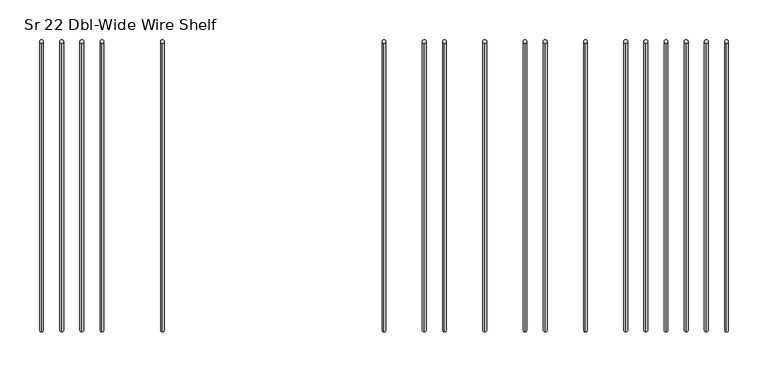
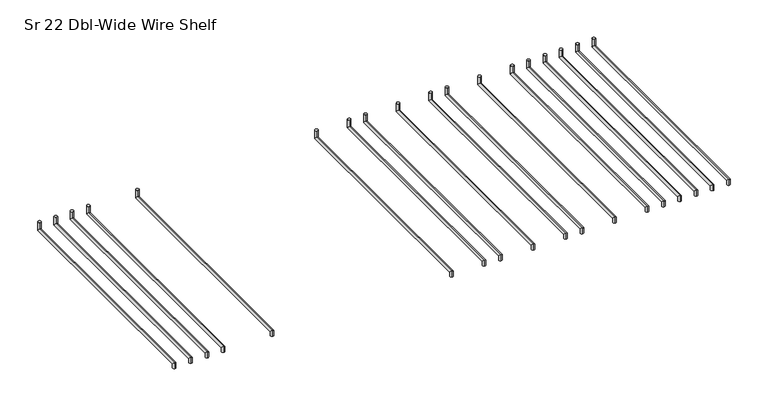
"""IFC4 building model written with IfcOpenShell, lengths in millimetres: furniture geometry, HermanMiller_Carts_CT521_CartShelf : Sr 22 Dbl-Wide Wire Shelf."""

from ifc_helpers import new_model, si_unit, frame, origin, place, context, project, spatial, circle_curve, ellipse_curve, source, transform, mapped, element, save
from ifc_brep_helpers import plane_surface, cylinder_surface, advanced_brep


def sr_22_dbl_wide_wire_shelf_bf86c19f(model_context):
    return source(origin(), model_context, "Body", "AdvancedBrep", [
        advanced_brep(
        [(561.7223083, -206.38135, 1538.8971), (561.7223083, -211.14385, 1538.8971), (561.7223083, -206.38135, 1543.6596), (561.7223083, -211.14385, 1548.4221), (561.7223083, 157.2983379, 1543.6596), (561.7223083, 152.5358379, 1548.4221), (561.7223083, 157.2983379, 1558.9377), (561.7223083, 152.5358379, 1558.9377)],
        [
            (0, 1, circle_curve(frame((561.7223083, -208.7626, 1538.8971), z_axis=(0.0, 0.0, -1.0), x_axis=(0.0, -1.0, 0.0)), 2.38125)),
            (1, 0, circle_curve(frame((561.7223083, -208.7626, 1538.8971), z_axis=(0.0, 0.0, -1.0), x_axis=(0.0, -1.0, 0.0)), 2.38125)),
            (0, 2),
            (2, 3, ellipse_curve(frame((561.7223083, -208.7626, 1546.04085), z_axis=(0.0, -0.7071067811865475, -0.7071067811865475), x_axis=(0.0, 0.7071067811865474, -0.7071067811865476)), 3.367596, 2.38125)),
            (3, 1),
            (3, 2, ellipse_curve(frame((561.7223083, -208.7626, 1546.04085), z_axis=(0.0, -0.7071067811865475, -0.7071067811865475), x_axis=(0.0, 0.7071067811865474, -0.7071067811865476)), 3.367596, 2.38125)),
            (2, 4),
            (4, 5, ellipse_curve(frame((561.7223083, 154.9170879, 1546.04085), z_axis=(0.0, -0.7071067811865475, -0.7071067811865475), x_axis=(0.0, -0.7071067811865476, 0.7071067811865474)), 3.367596, 2.38125)),
            (5, 3),
            (5, 4, ellipse_curve(frame((561.7223083, 154.9170879, 1546.04085), z_axis=(0.0, -0.7071067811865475, -0.7071067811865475), x_axis=(0.0, -0.7071067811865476, 0.7071067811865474)), 3.367596, 2.38125)),
            (6, 7, circle_curve(frame((561.7223083, 154.9170879, 1558.9377), z_axis=(0.0, 0.0, 1.0), x_axis=(0.0, -1.0, 0.0)), 2.38125)),
            (7, 6, circle_curve(frame((561.7223083, 154.9170879, 1558.9377), z_axis=(0.0, 0.0, 1.0), x_axis=(0.0, -1.0, 0.0)), 2.38125)),
            (4, 6),
            (7, 5),
        ],
        [
            plane_surface(frame((561.7223083, -208.7626, 1538.8971), z_axis=(0.0, 0.0, -1.0), x_axis=(1.0, 0.0, 0.0))),
            cylinder_surface(frame((561.7223083, -208.7626, 1538.8971), z_axis=(0.0, 0.0, -1.0), x_axis=(0.0, -1.0, 0.0)), 2.38125),
            cylinder_surface(frame((561.7223083, -208.7626, 1546.04085), z_axis=(0.0, -1.0, 0.0), x_axis=(0.0, 0.0, 1.0)), 2.38125),
            plane_surface(frame((561.7223083, 154.9170879, 1558.9377), z_axis=(0.0, 0.0, 1.0), x_axis=(1.0, 0.0, 0.0))),
            cylinder_surface(frame((561.7223083, 154.9170879, 1546.04085), z_axis=(0.0, 0.0, -1.0), x_axis=(0.0, -1.0, 0.0)), 2.38125),
        ],
        [
            (0, [[1, 2]]),
            (1, [[-1, 3, 4, 5]]),
            (1, [[-2, -5, 6, -3]]),
            (2, [[-4, 7, 8, 9]]),
            (2, [[-6, -9, 10, -7]]),
            (3, [[11, 12]]),
            (4, [[-8, 13, -12, 14]]),
            (4, [[-10, -14, -11, -13]]),
        ],
    ),
        advanced_brep(
        [(637.9223083, -206.38135, 1538.8971), (637.9223083, -211.14385, 1538.8971), (637.9223083, -206.38135, 1543.6596), (637.9223083, -211.14385, 1548.4221), (637.9223083, 157.2983379, 1543.6596), (637.9223083, 152.5358379, 1548.4221), (637.9223083, 157.2983379, 1558.9377), (637.9223083, 152.5358379, 1558.9377)],
        [
            (0, 1, circle_curve(frame((637.9223083, -208.7626, 1538.8971), z_axis=(0.0, 0.0, -1.0), x_axis=(0.0, -1.0, 0.0)), 2.38125)),
            (1, 0, circle_curve(frame((637.9223083, -208.7626, 1538.8971), z_axis=(0.0, 0.0, -1.0), x_axis=(0.0, -1.0, 0.0)), 2.38125)),
            (0, 2),
            (2, 3, ellipse_curve(frame((637.9223083, -208.7626, 1546.04085), z_axis=(0.0, -0.7071067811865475, -0.7071067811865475), x_axis=(0.0, 0.7071067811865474, -0.7071067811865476)), 3.367596, 2.38125)),
            (3, 1),
            (3, 2, ellipse_curve(frame((637.9223083, -208.7626, 1546.04085), z_axis=(0.0, -0.7071067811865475, -0.7071067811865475), x_axis=(0.0, 0.7071067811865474, -0.7071067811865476)), 3.367596, 2.38125)),
            (2, 4),
            (4, 5, ellipse_curve(frame((637.9223083, 154.9170879, 1546.04085), z_axis=(0.0, -0.7071067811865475, -0.7071067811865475), x_axis=(0.0, -0.7071067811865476, 0.7071067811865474)), 3.367596, 2.38125)),
            (5, 3),
            (5, 4, ellipse_curve(frame((637.9223083, 154.9170879, 1546.04085), z_axis=(0.0, -0.7071067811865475, -0.7071067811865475), x_axis=(0.0, -0.7071067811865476, 0.7071067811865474)), 3.367596, 2.38125)),
            (6, 7, circle_curve(frame((637.9223083, 154.9170879, 1558.9377), z_axis=(0.0, 0.0, 1.0), x_axis=(0.0, -1.0, 0.0)), 2.38125)),
            (7, 6, circle_curve(frame((637.9223083, 154.9170879, 1558.9377), z_axis=(0.0, 0.0, 1.0), x_axis=(0.0, -1.0, 0.0)), 2.38125)),
            (4, 6),
            (7, 5),
        ],
        [
            plane_surface(frame((637.9223083, -208.7626, 1538.8971), z_axis=(0.0, 0.0, -1.0), x_axis=(1.0, 0.0, 0.0))),
            cylinder_surface(frame((637.9223083, -208.7626, 1538.8971), z_axis=(0.0, 0.0, -1.0), x_axis=(0.0, -1.0, 0.0)), 2.38125),
            cylinder_surface(frame((637.9223083, -208.7626, 1546.04085), z_axis=(0.0, -1.0, 0.0), x_axis=(0.0, 0.0, 1.0)), 2.38125),
            plane_surface(frame((637.9223083, 154.9170879, 1558.9377), z_axis=(0.0, 0.0, 1.0), x_axis=(1.0, 0.0, 0.0))),
            cylinder_surface(frame((637.9223083, 154.9170879, 1546.04085), z_axis=(0.0, 0.0, -1.0), x_axis=(0.0, -1.0, 0.0)), 2.38125),
        ],
        [
            (0, [[1, 2]]),
            (1, [[-1, 3, 4, 5]]),
            (1, [[-2, -5, 6, -3]]),
            (2, [[-4, 7, 8, 9]]),
            (2, [[-6, -9, 10, -7]]),
            (3, [[11, 12]]),
            (4, [[-8, 13, -12, 14]]),
            (4, [[-10, -14, -11, -13]]),
        ],
    ),
        advanced_brep(
        [(688.7223083, -206.38135, 1538.8971), (688.7223083, -211.14385, 1538.8971), (688.7223083, -206.38135, 1543.6596), (688.7223083, -211.14385, 1548.4221), (688.7223083, 157.2983379, 1543.6596), (688.7223083, 152.5358379, 1548.4221), (688.7223083, 157.2983379, 1558.9377), (688.7223083, 152.5358379, 1558.9377)],
        [
            (0, 1, circle_curve(frame((688.7223083, -208.7626, 1538.8971), z_axis=(0.0, 0.0, -1.0), x_axis=(0.0, -1.0, 0.0)), 2.38125)),
            (1, 0, circle_curve(frame((688.7223083, -208.7626, 1538.8971), z_axis=(0.0, 0.0, -1.0), x_axis=(0.0, -1.0, 0.0)), 2.38125)),
            (0, 2),
            (2, 3, ellipse_curve(frame((688.7223083, -208.7626, 1546.04085), z_axis=(0.0, -0.7071067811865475, -0.7071067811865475), x_axis=(0.0, 0.7071067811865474, -0.7071067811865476)), 3.367596, 2.38125)),
            (3, 1),
            (3, 2, ellipse_curve(frame((688.7223083, -208.7626, 1546.04085), z_axis=(0.0, -0.7071067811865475, -0.7071067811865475), x_axis=(0.0, 0.7071067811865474, -0.7071067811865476)), 3.367596, 2.38125)),
            (2, 4),
            (4, 5, ellipse_curve(frame((688.7223083, 154.9170879, 1546.04085), z_axis=(0.0, -0.7071067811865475, -0.7071067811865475), x_axis=(0.0, -0.7071067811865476, 0.7071067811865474)), 3.367596, 2.38125)),
            (5, 3),
            (5, 4, ellipse_curve(frame((688.7223083, 154.9170879, 1546.04085), z_axis=(0.0, -0.7071067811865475, -0.7071067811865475), x_axis=(0.0, -0.7071067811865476, 0.7071067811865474)), 3.367596, 2.38125)),
            (6, 7, circle_curve(frame((688.7223083, 154.9170879, 1558.9377), z_axis=(0.0, 0.0, 1.0), x_axis=(0.0, -1.0, 0.0)), 2.38125)),
            (7, 6, circle_curve(frame((688.7223083, 154.9170879, 1558.9377), z_axis=(0.0, 0.0, 1.0), x_axis=(0.0, -1.0, 0.0)), 2.38125)),
            (4, 6),
            (7, 5),
        ],
        [
            plane_surface(frame((688.7223083, -208.7626, 1538.8971), z_axis=(0.0, 0.0, -1.0), x_axis=(1.0, 0.0, 0.0))),
            cylinder_surface(frame((688.7223083, -208.7626, 1538.8971), z_axis=(0.0, 0.0, -1.0), x_axis=(0.0, -1.0, 0.0)), 2.38125),
            cylinder_surface(frame((688.7223083, -208.7626, 1546.04085), z_axis=(0.0, -1.0, 0.0), x_axis=(0.0, 0.0, 1.0)), 2.38125),
            plane_surface(frame((688.7223083, 154.9170879, 1558.9377), z_axis=(0.0, 0.0, 1.0), x_axis=(1.0, 0.0, 0.0))),
            cylinder_surface(frame((688.7223083, 154.9170879, 1546.04085), z_axis=(0.0, 0.0, -1.0), x_axis=(0.0, -1.0, 0.0)), 2.38125),
        ],
        [
            (0, [[1, 2]]),
            (1, [[-1, 3, 4, 5]]),
            (1, [[-2, -5, 6, -3]]),
            (2, [[-4, 7, 8, 9]]),
            (2, [[-6, -9, 10, -7]]),
            (3, [[11, 12]]),
            (4, [[-8, 13, -12, 14]]),
            (4, [[-10, -14, -11, -13]]),
        ],
    ),
        advanced_brep(
        [(663.3223083, -206.38135, 1538.8971), (663.3223083, -211.14385, 1538.8971), (663.3223083, -206.38135, 1543.6596), (663.3223083, -211.14385, 1548.4221), (663.3223083, 157.2983379, 1543.6596), (663.3223083, 152.5358379, 1548.4221), (663.3223083, 157.2983379, 1558.9377), (663.3223083, 152.5358379, 1558.9377)],
        [
            (0, 1, circle_curve(frame((663.3223083, -208.7626, 1538.8971), z_axis=(0.0, 0.0, -1.0), x_axis=(0.0, -1.0, 0.0)), 2.38125)),
            (1, 0, circle_curve(frame((663.3223083, -208.7626, 1538.8971), z_axis=(0.0, 0.0, -1.0), x_axis=(0.0, -1.0, 0.0)), 2.38125)),
            (0, 2),
            (2, 3, ellipse_curve(frame((663.3223083, -208.7626, 1546.04085), z_axis=(0.0, -0.7071067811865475, -0.7071067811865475), x_axis=(0.0, 0.7071067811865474, -0.7071067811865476)), 3.367596, 2.38125)),
            (3, 1),
            (3, 2, ellipse_curve(frame((663.3223083, -208.7626, 1546.04085), z_axis=(0.0, -0.7071067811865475, -0.7071067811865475), x_axis=(0.0, 0.7071067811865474, -0.7071067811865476)), 3.367596, 2.38125)),
            (2, 4),
            (4, 5, ellipse_curve(frame((663.3223083, 154.9170879, 1546.04085), z_axis=(0.0, -0.7071067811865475, -0.7071067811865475), x_axis=(0.0, -0.7071067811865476, 0.7071067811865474)), 3.367596, 2.38125)),
            (5, 3),
            (5, 4, ellipse_curve(frame((663.3223083, 154.9170879, 1546.04085), z_axis=(0.0, -0.7071067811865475, -0.7071067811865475), x_axis=(0.0, -0.7071067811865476, 0.7071067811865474)), 3.367596, 2.38125)),
            (6, 7, circle_curve(frame((663.3223083, 154.9170879, 1558.9377), z_axis=(0.0, 0.0, 1.0), x_axis=(0.0, -1.0, 0.0)), 2.38125)),
            (7, 6, circle_curve(frame((663.3223083, 154.9170879, 1558.9377), z_axis=(0.0, 0.0, 1.0), x_axis=(0.0, -1.0, 0.0)), 2.38125)),
            (4, 6),
            (7, 5),
        ],
        [
            plane_surface(frame((663.3223083, -208.7626, 1538.8971), z_axis=(0.0, 0.0, -1.0), x_axis=(1.0, 0.0, 0.0))),
            cylinder_surface(frame((663.3223083, -208.7626, 1538.8971), z_axis=(0.0, 0.0, -1.0), x_axis=(0.0, -1.0, 0.0)), 2.38125),
            cylinder_surface(frame((663.3223083, -208.7626, 1546.04085), z_axis=(0.0, -1.0, 0.0), x_axis=(0.0, 0.0, 1.0)), 2.38125),
            plane_surface(frame((663.3223083, 154.9170879, 1558.9377), z_axis=(0.0, 0.0, 1.0), x_axis=(1.0, 0.0, 0.0))),
            cylinder_surface(frame((663.3223083, 154.9170879, 1546.04085), z_axis=(0.0, 0.0, -1.0), x_axis=(0.0, -1.0, 0.0)), 2.38125),
        ],
        [
            (0, [[1, 2]]),
            (1, [[-1, 3, 4, 5]]),
            (1, [[-2, -5, 6, -3]]),
            (2, [[-4, 7, 8, 9]]),
            (2, [[-6, -9, 10, -7]]),
            (3, [[11, 12]]),
            (4, [[-8, 13, -12, 14]]),
            (4, [[-10, -14, -11, -13]]),
        ],
    ),
        advanced_brep(
        [(612.5223083, -206.38135, 1538.8971), (612.5223083, -211.14385, 1538.8971), (612.5223083, -206.38135, 1543.6596), (612.5223083, -211.14385, 1548.4221), (612.5223083, 157.2983379, 1543.6596), (612.5223083, 152.5358379, 1548.4221), (612.5223083, 157.2983379, 1558.9377), (612.5223083, 152.5358379, 1558.9377)],
        [
            (0, 1, circle_curve(frame((612.5223083, -208.7626, 1538.8971), z_axis=(0.0, 0.0, -1.0), x_axis=(0.0, -1.0, 0.0)), 2.38125)),
            (1, 0, circle_curve(frame((612.5223083, -208.7626, 1538.8971), z_axis=(0.0, 0.0, -1.0), x_axis=(0.0, -1.0, 0.0)), 2.38125)),
            (0, 2),
            (2, 3, ellipse_curve(frame((612.5223083, -208.7626, 1546.04085), z_axis=(0.0, -0.7071067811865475, -0.7071067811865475), x_axis=(0.0, 0.7071067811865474, -0.7071067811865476)), 3.367596, 2.38125)),
            (3, 1),
            (3, 2, ellipse_curve(frame((612.5223083, -208.7626, 1546.04085), z_axis=(0.0, -0.7071067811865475, -0.7071067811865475), x_axis=(0.0, 0.7071067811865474, -0.7071067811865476)), 3.367596, 2.38125)),
            (2, 4),
            (4, 5, ellipse_curve(frame((612.5223083, 154.9170879, 1546.04085), z_axis=(0.0, -0.7071067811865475, -0.7071067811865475), x_axis=(0.0, -0.7071067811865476, 0.7071067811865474)), 3.367596, 2.38125)),
            (5, 3),
            (5, 4, ellipse_curve(frame((612.5223083, 154.9170879, 1546.04085), z_axis=(0.0, -0.7071067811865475, -0.7071067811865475), x_axis=(0.0, -0.7071067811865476, 0.7071067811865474)), 3.367596, 2.38125)),
            (6, 7, circle_curve(frame((612.5223083, 154.9170879, 1558.9377), z_axis=(0.0, 0.0, 1.0), x_axis=(0.0, -1.0, 0.0)), 2.38125)),
            (7, 6, circle_curve(frame((612.5223083, 154.9170879, 1558.9377), z_axis=(0.0, 0.0, 1.0), x_axis=(0.0, -1.0, 0.0)), 2.38125)),
            (4, 6),
            (7, 5),
        ],
        [
            plane_surface(frame((612.5223083, -208.7626, 1538.8971), z_axis=(0.0, 0.0, -1.0), x_axis=(1.0, 0.0, 0.0))),
            cylinder_surface(frame((612.5223083, -208.7626, 1538.8971), z_axis=(0.0, 0.0, -1.0), x_axis=(0.0, -1.0, 0.0)), 2.38125),
            cylinder_surface(frame((612.5223083, -208.7626, 1546.04085), z_axis=(0.0, -1.0, 0.0), x_axis=(0.0, 0.0, 1.0)), 2.38125),
            plane_surface(frame((612.5223083, 154.9170879, 1558.9377), z_axis=(0.0, 0.0, 1.0), x_axis=(1.0, 0.0, 0.0))),
            cylinder_surface(frame((612.5223083, 154.9170879, 1546.04085), z_axis=(0.0, 0.0, -1.0), x_axis=(0.0, -1.0, 0.0)), 2.38125),
        ],
        [
            (0, [[1, 2]]),
            (1, [[-1, 3, 4, 5]]),
            (1, [[-2, -5, 6, -3]]),
            (2, [[-4, 7, 8, 9]]),
            (2, [[-6, -9, 10, -7]]),
            (3, [[11, 12]]),
            (4, [[-8, 13, -12, 14]]),
            (4, [[-10, -14, -11, -13]]),
        ],
    ),
        advanced_brep(
        [(587.1223083, -206.38135, 1538.8971), (587.1223083, -211.14385, 1538.8971), (587.1223083, -206.38135, 1543.6596), (587.1223083, -211.14385, 1548.4221), (587.1223083, 157.2983379, 1543.6596), (587.1223083, 152.5358379, 1548.4221), (587.1223083, 157.2983379, 1558.9377), (587.1223083, 152.5358379, 1558.9377)],
        [
            (0, 1, circle_curve(frame((587.1223083, -208.7626, 1538.8971), z_axis=(0.0, 0.0, -1.0), x_axis=(0.0, -1.0, 0.0)), 2.38125)),
            (1, 0, circle_curve(frame((587.1223083, -208.7626, 1538.8971), z_axis=(0.0, 0.0, -1.0), x_axis=(0.0, -1.0, 0.0)), 2.38125)),
            (0, 2),
            (2, 3, ellipse_curve(frame((587.1223083, -208.7626, 1546.04085), z_axis=(0.0, -0.7071067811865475, -0.7071067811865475), x_axis=(0.0, 0.7071067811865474, -0.7071067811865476)), 3.367596, 2.38125)),
            (3, 1),
            (3, 2, ellipse_curve(frame((587.1223083, -208.7626, 1546.04085), z_axis=(0.0, -0.7071067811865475, -0.7071067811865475), x_axis=(0.0, 0.7071067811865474, -0.7071067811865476)), 3.367596, 2.38125)),
            (2, 4),
            (4, 5, ellipse_curve(frame((587.1223083, 154.9170879, 1546.04085), z_axis=(0.0, -0.7071067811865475, -0.7071067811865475), x_axis=(0.0, -0.7071067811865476, 0.7071067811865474)), 3.367596, 2.38125)),
            (5, 3),
            (5, 4, ellipse_curve(frame((587.1223083, 154.9170879, 1546.04085), z_axis=(0.0, -0.7071067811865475, -0.7071067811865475), x_axis=(0.0, -0.7071067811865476, 0.7071067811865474)), 3.367596, 2.38125)),
            (6, 7, circle_curve(frame((587.1223083, 154.9170879, 1558.9377), z_axis=(0.0, 0.0, 1.0), x_axis=(0.0, -1.0, 0.0)), 2.38125)),
            (7, 6, circle_curve(frame((587.1223083, 154.9170879, 1558.9377), z_axis=(0.0, 0.0, 1.0), x_axis=(0.0, -1.0, 0.0)), 2.38125)),
            (4, 6),
            (7, 5),
        ],
        [
            plane_surface(frame((587.1223083, -208.7626, 1538.8971), z_axis=(0.0, 0.0, -1.0), x_axis=(1.0, 0.0, 0.0))),
            cylinder_surface(frame((587.1223083, -208.7626, 1538.8971), z_axis=(0.0, 0.0, -1.0), x_axis=(0.0, -1.0, 0.0)), 2.38125),
            cylinder_surface(frame((587.1223083, -208.7626, 1546.04085), z_axis=(0.0, -1.0, 0.0), x_axis=(0.0, 0.0, 1.0)), 2.38125),
            plane_surface(frame((587.1223083, 154.9170879, 1558.9377), z_axis=(0.0, 0.0, 1.0), x_axis=(1.0, 0.0, 0.0))),
            cylinder_surface(frame((587.1223083, 154.9170879, 1546.04085), z_axis=(0.0, 0.0, -1.0), x_axis=(0.0, -1.0, 0.0)), 2.38125),
        ],
        [
            (0, [[1, 2]]),
            (1, [[-1, 3, 4, 5]]),
            (1, [[-2, -5, 6, -3]]),
            (2, [[-4, 7, 8, 9]]),
            (2, [[-6, -9, 10, -7]]),
            (3, [[11, 12]]),
            (4, [[-8, 13, -12, 14]]),
            (4, [[-10, -14, -11, -13]]),
        ],
    ),
        advanced_brep(
        [(510.9223083, -206.38135, 1538.8971), (510.9223083, -211.14385, 1538.8971), (510.9223083, -206.38135, 1543.6596), (510.9223083, -211.14385, 1548.4221), (510.9223083, 157.2983379, 1543.6596), (510.9223083, 152.5358379, 1548.4221), (510.9223083, 157.2983379, 1558.9377), (510.9223083, 152.5358379, 1558.9377)],
        [
            (0, 1, circle_curve(frame((510.9223083, -208.7626, 1538.8971), z_axis=(0.0, 0.0, -1.0), x_axis=(0.0, -1.0, 0.0)), 2.38125)),
            (1, 0, circle_curve(frame((510.9223083, -208.7626, 1538.8971), z_axis=(0.0, 0.0, -1.0), x_axis=(0.0, -1.0, 0.0)), 2.38125)),
            (0, 2),
            (2, 3, ellipse_curve(frame((510.9223083, -208.7626, 1546.04085), z_axis=(0.0, -0.7071067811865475, -0.7071067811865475), x_axis=(0.0, 0.7071067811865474, -0.7071067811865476)), 3.367596, 2.38125)),
            (3, 1),
            (3, 2, ellipse_curve(frame((510.9223083, -208.7626, 1546.04085), z_axis=(0.0, -0.7071067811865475, -0.7071067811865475), x_axis=(0.0, 0.7071067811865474, -0.7071067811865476)), 3.367596, 2.38125)),
            (2, 4),
            (4, 5, ellipse_curve(frame((510.9223083, 154.9170879, 1546.04085), z_axis=(0.0, -0.7071067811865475, -0.7071067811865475), x_axis=(0.0, -0.7071067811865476, 0.7071067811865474)), 3.367596, 2.38125)),
            (5, 3),
            (5, 4, ellipse_curve(frame((510.9223083, 154.9170879, 1546.04085), z_axis=(0.0, -0.7071067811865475, -0.7071067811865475), x_axis=(0.0, -0.7071067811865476, 0.7071067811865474)), 3.367596, 2.38125)),
            (6, 7, circle_curve(frame((510.9223083, 154.9170879, 1558.9377), z_axis=(0.0, 0.0, 1.0), x_axis=(0.0, -1.0, 0.0)), 2.38125)),
            (7, 6, circle_curve(frame((510.9223083, 154.9170879, 1558.9377), z_axis=(0.0, 0.0, 1.0), x_axis=(0.0, -1.0, 0.0)), 2.38125)),
            (4, 6),
            (7, 5),
        ],
        [
            plane_surface(frame((510.9223083, -208.7626, 1538.8971), z_axis=(0.0, 0.0, -1.0), x_axis=(1.0, 0.0, 0.0))),
            cylinder_surface(frame((510.9223083, -208.7626, 1538.8971), z_axis=(0.0, 0.0, -1.0), x_axis=(0.0, -1.0, 0.0)), 2.38125),
            cylinder_surface(frame((510.9223083, -208.7626, 1546.04085), z_axis=(0.0, -1.0, 0.0), x_axis=(0.0, 0.0, 1.0)), 2.38125),
            plane_surface(frame((510.9223083, 154.9170879, 1558.9377), z_axis=(0.0, 0.0, 1.0), x_axis=(1.0, 0.0, 0.0))),
            cylinder_surface(frame((510.9223083, 154.9170879, 1546.04085), z_axis=(0.0, 0.0, -1.0), x_axis=(0.0, -1.0, 0.0)), 2.38125),
        ],
        [
            (0, [[1, 2]]),
            (1, [[-1, 3, 4, 5]]),
            (1, [[-2, -5, 6, -3]]),
            (2, [[-4, 7, 8, 9]]),
            (2, [[-6, -9, 10, -7]]),
            (3, [[11, 12]]),
            (4, [[-8, 13, -12, 14]]),
            (4, [[-10, -14, -11, -13]]),
        ],
    ),
        advanced_brep(
        [(460.1223083, -206.38135, 1538.8971), (460.1223083, -211.14385, 1538.8971), (460.1223083, -206.38135, 1543.6596), (460.1223083, -211.14385, 1548.4221), (460.1223083, 157.2983379, 1543.6596), (460.1223083, 152.5358379, 1548.4221), (460.1223083, 157.2983379, 1558.9377), (460.1223083, 152.5358379, 1558.9377)],
        [
            (0, 1, circle_curve(frame((460.1223083, -208.7626, 1538.8971), z_axis=(0.0, 0.0, -1.0), x_axis=(0.0, -1.0, 0.0)), 2.38125)),
            (1, 0, circle_curve(frame((460.1223083, -208.7626, 1538.8971), z_axis=(0.0, 0.0, -1.0), x_axis=(0.0, -1.0, 0.0)), 2.38125)),
            (0, 2),
            (2, 3, ellipse_curve(frame((460.1223083, -208.7626, 1546.04085), z_axis=(0.0, -0.7071067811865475, -0.7071067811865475), x_axis=(0.0, 0.7071067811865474, -0.7071067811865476)), 3.367596, 2.38125)),
            (3, 1),
            (3, 2, ellipse_curve(frame((460.1223083, -208.7626, 1546.04085), z_axis=(0.0, -0.7071067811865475, -0.7071067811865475), x_axis=(0.0, 0.7071067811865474, -0.7071067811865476)), 3.367596, 2.38125)),
            (2, 4),
            (4, 5, ellipse_curve(frame((460.1223083, 154.9170879, 1546.04085), z_axis=(0.0, -0.7071067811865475, -0.7071067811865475), x_axis=(0.0, -0.7071067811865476, 0.7071067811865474)), 3.367596, 2.38125)),
            (5, 3),
            (5, 4, ellipse_curve(frame((460.1223083, 154.9170879, 1546.04085), z_axis=(0.0, -0.7071067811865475, -0.7071067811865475), x_axis=(0.0, -0.7071067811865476, 0.7071067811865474)), 3.367596, 2.38125)),
            (6, 7, circle_curve(frame((460.1223083, 154.9170879, 1558.9377), z_axis=(0.0, 0.0, 1.0), x_axis=(0.0, -1.0, 0.0)), 2.38125)),
            (7, 6, circle_curve(frame((460.1223083, 154.9170879, 1558.9377), z_axis=(0.0, 0.0, 1.0), x_axis=(0.0, -1.0, 0.0)), 2.38125)),
            (4, 6),
            (7, 5),
        ],
        [
            plane_surface(frame((460.1223083, -208.7626, 1538.8971), z_axis=(0.0, 0.0, -1.0), x_axis=(1.0, 0.0, 0.0))),
            cylinder_surface(frame((460.1223083, -208.7626, 1538.8971), z_axis=(0.0, 0.0, -1.0), x_axis=(0.0, -1.0, 0.0)), 2.38125),
            cylinder_surface(frame((460.1223083, -208.7626, 1546.04085), z_axis=(0.0, -1.0, 0.0), x_axis=(0.0, 0.0, 1.0)), 2.38125),
            plane_surface(frame((460.1223083, 154.9170879, 1558.9377), z_axis=(0.0, 0.0, 1.0), x_axis=(1.0, 0.0, 0.0))),
            cylinder_surface(frame((460.1223083, 154.9170879, 1546.04085), z_axis=(0.0, 0.0, -1.0), x_axis=(0.0, -1.0, 0.0)), 2.38125),
        ],
        [
            (0, [[1, 2]]),
            (1, [[-1, 3, 4, 5]]),
            (1, [[-2, -5, 6, -3]]),
            (2, [[-4, 7, 8, 9]]),
            (2, [[-6, -9, 10, -7]]),
            (3, [[11, 12]]),
            (4, [[-8, 13, -12, 14]]),
            (4, [[-10, -14, -11, -13]]),
        ],
    ),
        advanced_brep(
        [(434.7223083, -206.38135, 1538.8971), (434.7223083, -211.14385, 1538.8971), (434.7223083, -206.38135, 1543.6596), (434.7223083, -211.14385, 1548.4221), (434.7223083, 157.2983379, 1543.6596), (434.7223083, 152.5358379, 1548.4221), (434.7223083, 157.2983379, 1558.9377), (434.7223083, 152.5358379, 1558.9377)],
        [
            (0, 1, circle_curve(frame((434.7223083, -208.7626, 1538.8971), z_axis=(0.0, 0.0, -1.0), x_axis=(0.0, -1.0, 0.0)), 2.38125)),
            (1, 0, circle_curve(frame((434.7223083, -208.7626, 1538.8971), z_axis=(0.0, 0.0, -1.0), x_axis=(0.0, -1.0, 0.0)), 2.38125)),
            (0, 2),
            (2, 3, ellipse_curve(frame((434.7223083, -208.7626, 1546.04085), z_axis=(0.0, -0.7071067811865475, -0.7071067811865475), x_axis=(0.0, 0.7071067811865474, -0.7071067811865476)), 3.367596, 2.38125)),
            (3, 1),
            (3, 2, ellipse_curve(frame((434.7223083, -208.7626, 1546.04085), z_axis=(0.0, -0.7071067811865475, -0.7071067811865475), x_axis=(0.0, 0.7071067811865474, -0.7071067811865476)), 3.367596, 2.38125)),
            (2, 4),
            (4, 5, ellipse_curve(frame((434.7223083, 154.9170879, 1546.04085), z_axis=(0.0, -0.7071067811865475, -0.7071067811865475), x_axis=(0.0, -0.7071067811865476, 0.7071067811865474)), 3.367596, 2.38125)),
            (5, 3),
            (5, 4, ellipse_curve(frame((434.7223083, 154.9170879, 1546.04085), z_axis=(0.0, -0.7071067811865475, -0.7071067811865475), x_axis=(0.0, -0.7071067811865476, 0.7071067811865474)), 3.367596, 2.38125)),
            (6, 7, circle_curve(frame((434.7223083, 154.9170879, 1558.9377), z_axis=(0.0, 0.0, 1.0), x_axis=(0.0, -1.0, 0.0)), 2.38125)),
            (7, 6, circle_curve(frame((434.7223083, 154.9170879, 1558.9377), z_axis=(0.0, 0.0, 1.0), x_axis=(0.0, -1.0, 0.0)), 2.38125)),
            (4, 6),
            (7, 5),
        ],
        [
            plane_surface(frame((434.7223083, -208.7626, 1538.8971), z_axis=(0.0, 0.0, -1.0), x_axis=(1.0, 0.0, 0.0))),
            cylinder_surface(frame((434.7223083, -208.7626, 1538.8971), z_axis=(0.0, 0.0, -1.0), x_axis=(0.0, -1.0, 0.0)), 2.38125),
            cylinder_surface(frame((434.7223083, -208.7626, 1546.04085), z_axis=(0.0, -1.0, 0.0), x_axis=(0.0, 0.0, 1.0)), 2.38125),
            plane_surface(frame((434.7223083, 154.9170879, 1558.9377), z_axis=(0.0, 0.0, 1.0), x_axis=(1.0, 0.0, 0.0))),
            cylinder_surface(frame((434.7223083, 154.9170879, 1546.04085), z_axis=(0.0, 0.0, -1.0), x_axis=(0.0, -1.0, 0.0)), 2.38125),
        ],
        [
            (0, [[1, 2]]),
            (1, [[-1, 3, 4, 5]]),
            (1, [[-2, -5, 6, -3]]),
            (2, [[-4, 7, 8, 9]]),
            (2, [[-6, -9, 10, -7]]),
            (3, [[11, 12]]),
            (4, [[-8, 13, -12, 14]]),
            (4, [[-10, -14, -11, -13]]),
        ],
    ),
        advanced_brep(
        [(-98.6776917, -206.38135, 1538.8971), (-98.6776917, -211.14385, 1538.8971), (-98.6776917, -206.38135, 1543.6596), (-98.6776917, -211.14385, 1548.4221), (-98.6776917, 157.2983379, 1543.6596), (-98.6776917, 152.5358379, 1548.4221), (-98.6776917, 157.2983379, 1558.9377), (-98.6776917, 152.5358379, 1558.9377)],
        [
            (0, 1, circle_curve(frame((-98.6776917, -208.7626, 1538.8971), z_axis=(0.0, 0.0, -1.0), x_axis=(0.0, -1.0, 0.0)), 2.38125)),
            (1, 0, circle_curve(frame((-98.6776917, -208.7626, 1538.8971), z_axis=(0.0, 0.0, -1.0), x_axis=(0.0, -1.0, 0.0)), 2.38125)),
            (0, 2),
            (2, 3, ellipse_curve(frame((-98.6776917, -208.7626, 1546.04085), z_axis=(0.0, -0.7071067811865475, -0.7071067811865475), x_axis=(0.0, 0.7071067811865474, -0.7071067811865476)), 3.367596, 2.38125)),
            (3, 1),
            (3, 2, ellipse_curve(frame((-98.6776917, -208.7626, 1546.04085), z_axis=(0.0, -0.7071067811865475, -0.7071067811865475), x_axis=(0.0, 0.7071067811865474, -0.7071067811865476)), 3.367596, 2.38125)),
            (2, 4),
            (4, 5, ellipse_curve(frame((-98.6776917, 154.9170879, 1546.04085), z_axis=(0.0, -0.7071067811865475, -0.7071067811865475), x_axis=(0.0, -0.7071067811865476, 0.7071067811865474)), 3.367596, 2.38125)),
            (5, 3),
            (5, 4, ellipse_curve(frame((-98.6776917, 154.9170879, 1546.04085), z_axis=(0.0, -0.7071067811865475, -0.7071067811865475), x_axis=(0.0, -0.7071067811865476, 0.7071067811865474)), 3.367596, 2.38125)),
            (6, 7, circle_curve(frame((-98.6776917, 154.9170879, 1558.9377), z_axis=(0.0, 0.0, 1.0), x_axis=(0.0, -1.0, 0.0)), 2.38125)),
            (7, 6, circle_curve(frame((-98.6776917, 154.9170879, 1558.9377), z_axis=(0.0, 0.0, 1.0), x_axis=(0.0, -1.0, 0.0)), 2.38125)),
            (4, 6),
            (7, 5),
        ],
        [
            plane_surface(frame((-98.6776917, -208.7626, 1538.8971), z_axis=(0.0, 0.0, -1.0), x_axis=(1.0, 0.0, 0.0))),
            cylinder_surface(frame((-98.6776917, -208.7626, 1538.8971), z_axis=(0.0, 0.0, -1.0), x_axis=(0.0, -1.0, 0.0)), 2.38125),
            cylinder_surface(frame((-98.6776917, -208.7626, 1546.04085), z_axis=(0.0, -1.0, 0.0), x_axis=(0.0, 0.0, 1.0)), 2.38125),
            plane_surface(frame((-98.6776917, 154.9170879, 1558.9377), z_axis=(0.0, 0.0, 1.0), x_axis=(1.0, 0.0, 0.0))),
            cylinder_surface(frame((-98.6776917, 154.9170879, 1546.04085), z_axis=(0.0, 0.0, -1.0), x_axis=(0.0, -1.0, 0.0)), 2.38125),
        ],
        [
            (0, [[1, 2]]),
            (1, [[-1, 3, 4, 5]]),
            (1, [[-2, -5, 6, -3]]),
            (2, [[-4, 7, 8, 9]]),
            (2, [[-6, -9, 10, -7]]),
            (3, [[11, 12]]),
            (4, [[-8, 13, -12, 14]]),
            (4, [[-10, -14, -11, -13]]),
        ],
    ),
        advanced_brep(
        [(-149.4776917, -206.38135, 1538.8971), (-149.4776917, -211.14385, 1538.8971), (-149.4776917, -206.38135, 1543.6596), (-149.4776917, -211.14385, 1548.4221), (-149.4776917, 157.2983379, 1543.6596), (-149.4776917, 152.5358379, 1548.4221), (-149.4776917, 157.2983379, 1558.9377), (-149.4776917, 152.5358379, 1558.9377)],
        [
            (0, 1, circle_curve(frame((-149.4776917, -208.7626, 1538.8971), z_axis=(0.0, 0.0, -1.0), x_axis=(0.0, -1.0, 0.0)), 2.38125)),
            (1, 0, circle_curve(frame((-149.4776917, -208.7626, 1538.8971), z_axis=(0.0, 0.0, -1.0), x_axis=(0.0, -1.0, 0.0)), 2.38125)),
            (0, 2),
            (2, 3, ellipse_curve(frame((-149.4776917, -208.7626, 1546.04085), z_axis=(0.0, -0.7071067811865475, -0.7071067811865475), x_axis=(0.0, 0.7071067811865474, -0.7071067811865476)), 3.367596, 2.38125)),
            (3, 1),
            (3, 2, ellipse_curve(frame((-149.4776917, -208.7626, 1546.04085), z_axis=(0.0, -0.7071067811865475, -0.7071067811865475), x_axis=(0.0, 0.7071067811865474, -0.7071067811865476)), 3.367596, 2.38125)),
            (2, 4),
            (4, 5, ellipse_curve(frame((-149.4776917, 154.9170879, 1546.04085), z_axis=(0.0, -0.7071067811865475, -0.7071067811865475), x_axis=(0.0, -0.7071067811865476, 0.7071067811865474)), 3.367596, 2.38125)),
            (5, 3),
            (5, 4, ellipse_curve(frame((-149.4776917, 154.9170879, 1546.04085), z_axis=(0.0, -0.7071067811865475, -0.7071067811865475), x_axis=(0.0, -0.7071067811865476, 0.7071067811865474)), 3.367596, 2.38125)),
            (6, 7, circle_curve(frame((-149.4776917, 154.9170879, 1558.9377), z_axis=(0.0, 0.0, 1.0), x_axis=(0.0, -1.0, 0.0)), 2.38125)),
            (7, 6, circle_curve(frame((-149.4776917, 154.9170879, 1558.9377), z_axis=(0.0, 0.0, 1.0), x_axis=(0.0, -1.0, 0.0)), 2.38125)),
            (4, 6),
            (7, 5),
        ],
        [
            plane_surface(frame((-149.4776917, -208.7626, 1538.8971), z_axis=(0.0, 0.0, -1.0), x_axis=(1.0, 0.0, 0.0))),
            cylinder_surface(frame((-149.4776917, -208.7626, 1538.8971), z_axis=(0.0, 0.0, -1.0), x_axis=(0.0, -1.0, 0.0)), 2.38125),
            cylinder_surface(frame((-149.4776917, -208.7626, 1546.04085), z_axis=(0.0, -1.0, 0.0), x_axis=(0.0, 0.0, 1.0)), 2.38125),
            plane_surface(frame((-149.4776917, 154.9170879, 1558.9377), z_axis=(0.0, 0.0, 1.0), x_axis=(1.0, 0.0, 0.0))),
            cylinder_surface(frame((-149.4776917, 154.9170879, 1546.04085), z_axis=(0.0, 0.0, -1.0), x_axis=(0.0, -1.0, 0.0)), 2.38125),
        ],
        [
            (0, [[1, 2]]),
            (1, [[-1, 3, 4, 5]]),
            (1, [[-2, -5, 6, -3]]),
            (2, [[-4, 7, 8, 9]]),
            (2, [[-6, -9, 10, -7]]),
            (3, [[11, 12]]),
            (4, [[-8, 13, -12, 14]]),
            (4, [[-10, -14, -11, -13]]),
        ],
    ),
        advanced_brep(
        [(-174.8776917, -206.38135, 1538.8971), (-174.8776917, -211.14385, 1538.8971), (-174.8776917, -206.38135, 1543.6596), (-174.8776917, -211.14385, 1548.4221), (-174.8776917, 157.2983379, 1543.6596), (-174.8776917, 152.5358379, 1548.4221), (-174.8776917, 157.2983379, 1558.9377), (-174.8776917, 152.5358379, 1558.9377)],
        [
            (0, 1, circle_curve(frame((-174.8776917, -208.7626, 1538.8971), z_axis=(0.0, 0.0, -1.0), x_axis=(0.0, -1.0, 0.0)), 2.38125)),
            (1, 0, circle_curve(frame((-174.8776917, -208.7626, 1538.8971), z_axis=(0.0, 0.0, -1.0), x_axis=(0.0, -1.0, 0.0)), 2.38125)),
            (0, 2),
            (2, 3, ellipse_curve(frame((-174.8776917, -208.7626, 1546.04085), z_axis=(0.0, -0.7071067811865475, -0.7071067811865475), x_axis=(0.0, 0.7071067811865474, -0.7071067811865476)), 3.367596, 2.38125)),
            (3, 1),
            (3, 2, ellipse_curve(frame((-174.8776917, -208.7626, 1546.04085), z_axis=(0.0, -0.7071067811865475, -0.7071067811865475), x_axis=(0.0, 0.7071067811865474, -0.7071067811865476)), 3.367596, 2.38125)),
            (2, 4),
            (4, 5, ellipse_curve(frame((-174.8776917, 154.9170879, 1546.04085), z_axis=(0.0, -0.7071067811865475, -0.7071067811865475), x_axis=(0.0, -0.7071067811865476, 0.7071067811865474)), 3.367596, 2.38125)),
            (5, 3),
            (5, 4, ellipse_curve(frame((-174.8776917, 154.9170879, 1546.04085), z_axis=(0.0, -0.7071067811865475, -0.7071067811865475), x_axis=(0.0, -0.7071067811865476, 0.7071067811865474)), 3.367596, 2.38125)),
            (6, 7, circle_curve(frame((-174.8776917, 154.9170879, 1558.9377), z_axis=(0.0, 0.0, 1.0), x_axis=(0.0, -1.0, 0.0)), 2.38125)),
            (7, 6, circle_curve(frame((-174.8776917, 154.9170879, 1558.9377), z_axis=(0.0, 0.0, 1.0), x_axis=(0.0, -1.0, 0.0)), 2.38125)),
            (4, 6),
            (7, 5),
        ],
        [
            plane_surface(frame((-174.8776917, -208.7626, 1538.8971), z_axis=(0.0, 0.0, -1.0), x_axis=(1.0, 0.0, 0.0))),
            cylinder_surface(frame((-174.8776917, -208.7626, 1538.8971), z_axis=(0.0, 0.0, -1.0), x_axis=(0.0, -1.0, 0.0)), 2.38125),
            cylinder_surface(frame((-174.8776917, -208.7626, 1546.04085), z_axis=(0.0, -1.0, 0.0), x_axis=(0.0, 0.0, 1.0)), 2.38125),
            plane_surface(frame((-174.8776917, 154.9170879, 1558.9377), z_axis=(0.0, 0.0, 1.0), x_axis=(1.0, 0.0, 0.0))),
            cylinder_surface(frame((-174.8776917, 154.9170879, 1546.04085), z_axis=(0.0, 0.0, -1.0), x_axis=(0.0, -1.0, 0.0)), 2.38125),
        ],
        [
            (0, [[1, 2]]),
            (1, [[-1, 3, 4, 5]]),
            (1, [[-2, -5, 6, -3]]),
            (2, [[-4, 7, 8, 9]]),
            (2, [[-6, -9, 10, -7]]),
            (3, [[11, 12]]),
            (4, [[-8, 13, -12, 14]]),
            (4, [[-10, -14, -11, -13]]),
        ],
    ),
        advanced_brep(
        [(-124.0776917, -206.38135, 1538.8971), (-124.0776917, -211.14385, 1538.8971), (-124.0776917, -206.38135, 1543.6596), (-124.0776917, -211.14385, 1548.4221), (-124.0776917, 157.2983379, 1543.6596), (-124.0776917, 152.5358379, 1548.4221), (-124.0776917, 157.2983379, 1558.9377), (-124.0776917, 152.5358379, 1558.9377)],
        [
            (0, 1, circle_curve(frame((-124.0776917, -208.7626, 1538.8971), z_axis=(0.0, 0.0, -1.0), x_axis=(0.0, -1.0, 0.0)), 2.38125)),
            (1, 0, circle_curve(frame((-124.0776917, -208.7626, 1538.8971), z_axis=(0.0, 0.0, -1.0), x_axis=(0.0, -1.0, 0.0)), 2.38125)),
            (0, 2),
            (2, 3, ellipse_curve(frame((-124.0776917, -208.7626, 1546.04085), z_axis=(0.0, -0.7071067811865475, -0.7071067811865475), x_axis=(0.0, 0.7071067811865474, -0.7071067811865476)), 3.367596, 2.38125)),
            (3, 1),
            (3, 2, ellipse_curve(frame((-124.0776917, -208.7626, 1546.04085), z_axis=(0.0, -0.7071067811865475, -0.7071067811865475), x_axis=(0.0, 0.7071067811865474, -0.7071067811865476)), 3.367596, 2.38125)),
            (2, 4),
            (4, 5, ellipse_curve(frame((-124.0776917, 154.9170879, 1546.04085), z_axis=(0.0, -0.7071067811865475, -0.7071067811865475), x_axis=(0.0, -0.7071067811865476, 0.7071067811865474)), 3.367596, 2.38125)),
            (5, 3),
            (5, 4, ellipse_curve(frame((-124.0776917, 154.9170879, 1546.04085), z_axis=(0.0, -0.7071067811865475, -0.7071067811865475), x_axis=(0.0, -0.7071067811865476, 0.7071067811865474)), 3.367596, 2.38125)),
            (6, 7, circle_curve(frame((-124.0776917, 154.9170879, 1558.9377), z_axis=(0.0, 0.0, 1.0), x_axis=(0.0, -1.0, 0.0)), 2.38125)),
            (7, 6, circle_curve(frame((-124.0776917, 154.9170879, 1558.9377), z_axis=(0.0, 0.0, 1.0), x_axis=(0.0, -1.0, 0.0)), 2.38125)),
            (4, 6),
            (7, 5),
        ],
        [
            plane_surface(frame((-124.0776917, -208.7626, 1538.8971), z_axis=(0.0, 0.0, -1.0), x_axis=(1.0, 0.0, 0.0))),
            cylinder_surface(frame((-124.0776917, -208.7626, 1538.8971), z_axis=(0.0, 0.0, -1.0), x_axis=(0.0, -1.0, 0.0)), 2.38125),
            cylinder_surface(frame((-124.0776917, -208.7626, 1546.04085), z_axis=(0.0, -1.0, 0.0), x_axis=(0.0, 0.0, 1.0)), 2.38125),
            plane_surface(frame((-124.0776917, 154.9170879, 1558.9377), z_axis=(0.0, 0.0, 1.0), x_axis=(1.0, 0.0, 0.0))),
            cylinder_surface(frame((-124.0776917, 154.9170879, 1546.04085), z_axis=(0.0, 0.0, -1.0), x_axis=(0.0, -1.0, 0.0)), 2.38125),
        ],
        [
            (0, [[1, 2]]),
            (1, [[-1, 3, 4, 5]]),
            (1, [[-2, -5, 6, -3]]),
            (2, [[-4, 7, 8, 9]]),
            (2, [[-6, -9, 10, -7]]),
            (3, [[11, 12]]),
            (4, [[-8, 13, -12, 14]]),
            (4, [[-10, -14, -11, -13]]),
        ],
    ),
        advanced_brep(
        [(-22.4776917, -206.38135, 1538.8971), (-22.4776917, -211.14385, 1538.8971), (-22.4776917, -206.38135, 1543.6596), (-22.4776917, -211.14385, 1548.4221), (-22.4776917, 157.2983379, 1543.6596), (-22.4776917, 152.5358379, 1548.4221), (-22.4776917, 157.2983379, 1558.9377), (-22.4776917, 152.5358379, 1558.9377)],
        [
            (0, 1, circle_curve(frame((-22.4776917, -208.7626, 1538.8971), z_axis=(0.0, 0.0, -1.0), x_axis=(0.0, -1.0, 0.0)), 2.38125)),
            (1, 0, circle_curve(frame((-22.4776917, -208.7626, 1538.8971), z_axis=(0.0, 0.0, -1.0), x_axis=(0.0, -1.0, 0.0)), 2.38125)),
            (0, 2),
            (2, 3, ellipse_curve(frame((-22.4776917, -208.7626, 1546.04085), z_axis=(0.0, -0.7071067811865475, -0.7071067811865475), x_axis=(0.0, 0.7071067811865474, -0.7071067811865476)), 3.367596, 2.38125)),
            (3, 1),
            (3, 2, ellipse_curve(frame((-22.4776917, -208.7626, 1546.04085), z_axis=(0.0, -0.7071067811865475, -0.7071067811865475), x_axis=(0.0, 0.7071067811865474, -0.7071067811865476)), 3.367596, 2.38125)),
            (2, 4),
            (4, 5, ellipse_curve(frame((-22.4776917, 154.9170879, 1546.04085), z_axis=(0.0, -0.7071067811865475, -0.7071067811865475), x_axis=(0.0, -0.7071067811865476, 0.7071067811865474)), 3.367596, 2.38125)),
            (5, 3),
            (5, 4, ellipse_curve(frame((-22.4776917, 154.9170879, 1546.04085), z_axis=(0.0, -0.7071067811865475, -0.7071067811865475), x_axis=(0.0, -0.7071067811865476, 0.7071067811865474)), 3.367596, 2.38125)),
            (6, 7, circle_curve(frame((-22.4776917, 154.9170879, 1558.9377), z_axis=(0.0, 0.0, 1.0), x_axis=(0.0, -1.0, 0.0)), 2.38125)),
            (7, 6, circle_curve(frame((-22.4776917, 154.9170879, 1558.9377), z_axis=(0.0, 0.0, 1.0), x_axis=(0.0, -1.0, 0.0)), 2.38125)),
            (4, 6),
            (7, 5),
        ],
        [
            plane_surface(frame((-22.4776917, -208.7626, 1538.8971), z_axis=(0.0, 0.0, -1.0), x_axis=(1.0, 0.0, 0.0))),
            cylinder_surface(frame((-22.4776917, -208.7626, 1538.8971), z_axis=(0.0, 0.0, -1.0), x_axis=(0.0, -1.0, 0.0)), 2.38125),
            cylinder_surface(frame((-22.4776917, -208.7626, 1546.04085), z_axis=(0.0, -1.0, 0.0), x_axis=(0.0, 0.0, 1.0)), 2.38125),
            plane_surface(frame((-22.4776917, 154.9170879, 1558.9377), z_axis=(0.0, 0.0, 1.0), x_axis=(1.0, 0.0, 0.0))),
            cylinder_surface(frame((-22.4776917, 154.9170879, 1546.04085), z_axis=(0.0, 0.0, -1.0), x_axis=(0.0, -1.0, 0.0)), 2.38125),
        ],
        [
            (0, [[1, 2]]),
            (1, [[-1, 3, 4, 5]]),
            (1, [[-2, -5, 6, -3]]),
            (2, [[-4, 7, 8, 9]]),
            (2, [[-6, -9, 10, -7]]),
            (3, [[11, 12]]),
            (4, [[-8, 13, -12, 14]]),
            (4, [[-10, -14, -11, -13]]),
        ],
    ),
        advanced_brep(
        [(333.1223083, -206.38135, 1538.8971), (333.1223083, -211.14385, 1538.8971), (333.1223083, -206.38135, 1543.6596), (333.1223083, -211.14385, 1548.4221), (333.1223083, 157.2983379, 1543.6596), (333.1223083, 152.5358379, 1548.4221), (333.1223083, 157.2983379, 1558.9377), (333.1223083, 152.5358379, 1558.9377)],
        [
            (0, 1, circle_curve(frame((333.1223083, -208.7626, 1538.8971), z_axis=(0.0, 0.0, -1.0), x_axis=(0.0, -1.0, 0.0)), 2.38125)),
            (1, 0, circle_curve(frame((333.1223083, -208.7626, 1538.8971), z_axis=(0.0, 0.0, -1.0), x_axis=(0.0, -1.0, 0.0)), 2.38125)),
            (0, 2),
            (2, 3, ellipse_curve(frame((333.1223083, -208.7626, 1546.04085), z_axis=(0.0, -0.7071067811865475, -0.7071067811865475), x_axis=(0.0, 0.7071067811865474, -0.7071067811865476)), 3.367596, 2.38125)),
            (3, 1),
            (3, 2, ellipse_curve(frame((333.1223083, -208.7626, 1546.04085), z_axis=(0.0, -0.7071067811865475, -0.7071067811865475), x_axis=(0.0, 0.7071067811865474, -0.7071067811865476)), 3.367596, 2.38125)),
            (2, 4),
            (4, 5, ellipse_curve(frame((333.1223083, 154.9170879, 1546.04085), z_axis=(0.0, -0.7071067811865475, -0.7071067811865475), x_axis=(0.0, -0.7071067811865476, 0.7071067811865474)), 3.367596, 2.38125)),
            (5, 3),
            (5, 4, ellipse_curve(frame((333.1223083, 154.9170879, 1546.04085), z_axis=(0.0, -0.7071067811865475, -0.7071067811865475), x_axis=(0.0, -0.7071067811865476, 0.7071067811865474)), 3.367596, 2.38125)),
            (6, 7, circle_curve(frame((333.1223083, 154.9170879, 1558.9377), z_axis=(0.0, 0.0, 1.0), x_axis=(0.0, -1.0, 0.0)), 2.38125)),
            (7, 6, circle_curve(frame((333.1223083, 154.9170879, 1558.9377), z_axis=(0.0, 0.0, 1.0), x_axis=(0.0, -1.0, 0.0)), 2.38125)),
            (4, 6),
            (7, 5),
        ],
        [
            plane_surface(frame((333.1223083, -208.7626, 1538.8971), z_axis=(0.0, 0.0, -1.0), x_axis=(1.0, 0.0, 0.0))),
            cylinder_surface(frame((333.1223083, -208.7626, 1538.8971), z_axis=(0.0, 0.0, -1.0), x_axis=(0.0, -1.0, 0.0)), 2.38125),
            cylinder_surface(frame((333.1223083, -208.7626, 1546.04085), z_axis=(0.0, -1.0, 0.0), x_axis=(0.0, 0.0, 1.0)), 2.38125),
            plane_surface(frame((333.1223083, 154.9170879, 1558.9377), z_axis=(0.0, 0.0, 1.0), x_axis=(1.0, 0.0, 0.0))),
            cylinder_surface(frame((333.1223083, 154.9170879, 1546.04085), z_axis=(0.0, 0.0, -1.0), x_axis=(0.0, -1.0, 0.0)), 2.38125),
        ],
        [
            (0, [[1, 2]]),
            (1, [[-1, 3, 4, 5]]),
            (1, [[-2, -5, 6, -3]]),
            (2, [[-4, 7, 8, 9]]),
            (2, [[-6, -9, 10, -7]]),
            (3, [[11, 12]]),
            (4, [[-8, 13, -12, 14]]),
            (4, [[-10, -14, -11, -13]]),
        ],
    ),
        advanced_brep(
        [(256.9223083, -206.38135, 1538.8971), (256.9223083, -211.14385, 1538.8971), (256.9223083, -206.38135, 1543.6596), (256.9223083, -211.14385, 1548.4221), (256.9223083, 157.2983379, 1543.6596), (256.9223083, 152.5358379, 1548.4221), (256.9223083, 157.2983379, 1558.9377), (256.9223083, 152.5358379, 1558.9377)],
        [
            (0, 1, circle_curve(frame((256.9223083, -208.7626, 1538.8971), z_axis=(0.0, 0.0, -1.0), x_axis=(0.0, -1.0, 0.0)), 2.38125)),
            (1, 0, circle_curve(frame((256.9223083, -208.7626, 1538.8971), z_axis=(0.0, 0.0, -1.0), x_axis=(0.0, -1.0, 0.0)), 2.38125)),
            (0, 2),
            (2, 3, ellipse_curve(frame((256.9223083, -208.7626, 1546.04085), z_axis=(0.0, -0.7071067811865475, -0.7071067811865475), x_axis=(0.0, 0.7071067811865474, -0.7071067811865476)), 3.367596, 2.38125)),
            (3, 1),
            (3, 2, ellipse_curve(frame((256.9223083, -208.7626, 1546.04085), z_axis=(0.0, -0.7071067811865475, -0.7071067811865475), x_axis=(0.0, 0.7071067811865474, -0.7071067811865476)), 3.367596, 2.38125)),
            (2, 4),
            (4, 5, ellipse_curve(frame((256.9223083, 154.9170879, 1546.04085), z_axis=(0.0, -0.7071067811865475, -0.7071067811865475), x_axis=(0.0, -0.7071067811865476, 0.7071067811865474)), 3.367596, 2.38125)),
            (5, 3),
            (5, 4, ellipse_curve(frame((256.9223083, 154.9170879, 1546.04085), z_axis=(0.0, -0.7071067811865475, -0.7071067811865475), x_axis=(0.0, -0.7071067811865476, 0.7071067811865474)), 3.367596, 2.38125)),
            (6, 7, circle_curve(frame((256.9223083, 154.9170879, 1558.9377), z_axis=(0.0, 0.0, 1.0), x_axis=(0.0, -1.0, 0.0)), 2.38125)),
            (7, 6, circle_curve(frame((256.9223083, 154.9170879, 1558.9377), z_axis=(0.0, 0.0, 1.0), x_axis=(0.0, -1.0, 0.0)), 2.38125)),
            (4, 6),
            (7, 5),
        ],
        [
            plane_surface(frame((256.9223083, -208.7626, 1538.8971), z_axis=(0.0, 0.0, -1.0), x_axis=(1.0, 0.0, 0.0))),
            cylinder_surface(frame((256.9223083, -208.7626, 1538.8971), z_axis=(0.0, 0.0, -1.0), x_axis=(0.0, -1.0, 0.0)), 2.38125),
            cylinder_surface(frame((256.9223083, -208.7626, 1546.04085), z_axis=(0.0, -1.0, 0.0), x_axis=(0.0, 0.0, 1.0)), 2.38125),
            plane_surface(frame((256.9223083, 154.9170879, 1558.9377), z_axis=(0.0, 0.0, 1.0), x_axis=(1.0, 0.0, 0.0))),
            cylinder_surface(frame((256.9223083, 154.9170879, 1546.04085), z_axis=(0.0, 0.0, -1.0), x_axis=(0.0, -1.0, 0.0)), 2.38125),
        ],
        [
            (0, [[1, 2]]),
            (1, [[-1, 3, 4, 5]]),
            (1, [[-2, -5, 6, -3]]),
            (2, [[-4, 7, 8, 9]]),
            (2, [[-6, -9, 10, -7]]),
            (3, [[11, 12]]),
            (4, [[-8, 13, -12, 14]]),
            (4, [[-10, -14, -11, -13]]),
        ],
    ),
        advanced_brep(
        [(307.7223083, -206.38135, 1538.8971), (307.7223083, -211.14385, 1538.8971), (307.7223083, -206.38135, 1543.6596), (307.7223083, -211.14385, 1548.4221), (307.7223083, 157.2983379, 1543.6596), (307.7223083, 152.5358379, 1548.4221), (307.7223083, 157.2983379, 1558.9377), (307.7223083, 152.5358379, 1558.9377)],
        [
            (0, 1, circle_curve(frame((307.7223083, -208.7626, 1538.8971), z_axis=(0.0, 0.0, -1.0), x_axis=(0.0, -1.0, 0.0)), 2.38125)),
            (1, 0, circle_curve(frame((307.7223083, -208.7626, 1538.8971), z_axis=(0.0, 0.0, -1.0), x_axis=(0.0, -1.0, 0.0)), 2.38125)),
            (0, 2),
            (2, 3, ellipse_curve(frame((307.7223083, -208.7626, 1546.04085), z_axis=(0.0, -0.7071067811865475, -0.7071067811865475), x_axis=(0.0, 0.7071067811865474, -0.7071067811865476)), 3.367596, 2.38125)),
            (3, 1),
            (3, 2, ellipse_curve(frame((307.7223083, -208.7626, 1546.04085), z_axis=(0.0, -0.7071067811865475, -0.7071067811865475), x_axis=(0.0, 0.7071067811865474, -0.7071067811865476)), 3.367596, 2.38125)),
            (2, 4),
            (4, 5, ellipse_curve(frame((307.7223083, 154.9170879, 1546.04085), z_axis=(0.0, -0.7071067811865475, -0.7071067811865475), x_axis=(0.0, -0.7071067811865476, 0.7071067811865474)), 3.367596, 2.38125)),
            (5, 3),
            (5, 4, ellipse_curve(frame((307.7223083, 154.9170879, 1546.04085), z_axis=(0.0, -0.7071067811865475, -0.7071067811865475), x_axis=(0.0, -0.7071067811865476, 0.7071067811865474)), 3.367596, 2.38125)),
            (6, 7, circle_curve(frame((307.7223083, 154.9170879, 1558.9377), z_axis=(0.0, 0.0, 1.0), x_axis=(0.0, -1.0, 0.0)), 2.38125)),
            (7, 6, circle_curve(frame((307.7223083, 154.9170879, 1558.9377), z_axis=(0.0, 0.0, 1.0), x_axis=(0.0, -1.0, 0.0)), 2.38125)),
            (4, 6),
            (7, 5),
        ],
        [
            plane_surface(frame((307.7223083, -208.7626, 1538.8971), z_axis=(0.0, 0.0, -1.0), x_axis=(1.0, 0.0, 0.0))),
            cylinder_surface(frame((307.7223083, -208.7626, 1538.8971), z_axis=(0.0, 0.0, -1.0), x_axis=(0.0, -1.0, 0.0)), 2.38125),
            cylinder_surface(frame((307.7223083, -208.7626, 1546.04085), z_axis=(0.0, -1.0, 0.0), x_axis=(0.0, 0.0, 1.0)), 2.38125),
            plane_surface(frame((307.7223083, 154.9170879, 1558.9377), z_axis=(0.0, 0.0, 1.0), x_axis=(1.0, 0.0, 0.0))),
            cylinder_surface(frame((307.7223083, 154.9170879, 1546.04085), z_axis=(0.0, 0.0, -1.0), x_axis=(0.0, -1.0, 0.0)), 2.38125),
        ],
        [
            (0, [[1, 2]]),
            (1, [[-1, 3, 4, 5]]),
            (1, [[-2, -5, 6, -3]]),
            (2, [[-4, 7, 8, 9]]),
            (2, [[-6, -9, 10, -7]]),
            (3, [[11, 12]]),
            (4, [[-8, 13, -12, 14]]),
            (4, [[-10, -14, -11, -13]]),
        ],
    ),
        advanced_brep(
        [(383.9223083, -206.38135, 1538.8971), (383.9223083, -211.14385, 1538.8971), (383.9223083, -206.38135, 1543.6596), (383.9223083, -211.14385, 1548.4221), (383.9223083, 157.2983379, 1543.6596), (383.9223083, 152.5358379, 1548.4221), (383.9223083, 157.2983379, 1558.9377), (383.9223083, 152.5358379, 1558.9377)],
        [
            (0, 1, circle_curve(frame((383.9223083, -208.7626, 1538.8971), z_axis=(0.0, 0.0, -1.0), x_axis=(0.0, -1.0, 0.0)), 2.38125)),
            (1, 0, circle_curve(frame((383.9223083, -208.7626, 1538.8971), z_axis=(0.0, 0.0, -1.0), x_axis=(0.0, -1.0, 0.0)), 2.38125)),
            (0, 2),
            (2, 3, ellipse_curve(frame((383.9223083, -208.7626, 1546.04085), z_axis=(0.0, -0.7071067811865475, -0.7071067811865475), x_axis=(0.0, 0.7071067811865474, -0.7071067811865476)), 3.367596, 2.38125)),
            (3, 1),
            (3, 2, ellipse_curve(frame((383.9223083, -208.7626, 1546.04085), z_axis=(0.0, -0.7071067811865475, -0.7071067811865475), x_axis=(0.0, 0.7071067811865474, -0.7071067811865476)), 3.367596, 2.38125)),
            (2, 4),
            (4, 5, ellipse_curve(frame((383.9223083, 154.9170879, 1546.04085), z_axis=(0.0, -0.7071067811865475, -0.7071067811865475), x_axis=(0.0, -0.7071067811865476, 0.7071067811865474)), 3.367596, 2.38125)),
            (5, 3),
            (5, 4, ellipse_curve(frame((383.9223083, 154.9170879, 1546.04085), z_axis=(0.0, -0.7071067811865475, -0.7071067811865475), x_axis=(0.0, -0.7071067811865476, 0.7071067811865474)), 3.367596, 2.38125)),
            (6, 7, circle_curve(frame((383.9223083, 154.9170879, 1558.9377), z_axis=(0.0, 0.0, 1.0), x_axis=(0.0, -1.0, 0.0)), 2.38125)),
            (7, 6, circle_curve(frame((383.9223083, 154.9170879, 1558.9377), z_axis=(0.0, 0.0, 1.0), x_axis=(0.0, -1.0, 0.0)), 2.38125)),
            (4, 6),
            (7, 5),
        ],
        [
            plane_surface(frame((383.9223083, -208.7626, 1538.8971), z_axis=(0.0, 0.0, -1.0), x_axis=(1.0, 0.0, 0.0))),
            cylinder_surface(frame((383.9223083, -208.7626, 1538.8971), z_axis=(0.0, 0.0, -1.0), x_axis=(0.0, -1.0, 0.0)), 2.38125),
            cylinder_surface(frame((383.9223083, -208.7626, 1546.04085), z_axis=(0.0, -1.0, 0.0), x_axis=(0.0, 0.0, 1.0)), 2.38125),
            plane_surface(frame((383.9223083, 154.9170879, 1558.9377), z_axis=(0.0, 0.0, 1.0), x_axis=(1.0, 0.0, 0.0))),
            cylinder_surface(frame((383.9223083, 154.9170879, 1546.04085), z_axis=(0.0, 0.0, -1.0), x_axis=(0.0, -1.0, 0.0)), 2.38125),
        ],
        [
            (0, [[1, 2]]),
            (1, [[-1, 3, 4, 5]]),
            (1, [[-2, -5, 6, -3]]),
            (2, [[-4, 7, 8, 9]]),
            (2, [[-6, -9, 10, -7]]),
            (3, [[11, 12]]),
            (4, [[-8, 13, -12, 14]]),
            (4, [[-10, -14, -11, -13]]),
        ],
    ),
    ])


if __name__ == "__main__":
    model = new_model("IFC4")
    model_context = context("Model", 3, world=origin())
    ifc_project = project(units=[si_unit("LENGTHUNIT", "METRE", prefix="MILLI")], contexts=[model_context])
    site = spatial("IfcSite", under=ifc_project)
    building = spatial("IfcBuilding", under=site)
    placement = place(None, origin())
    sr_22_dbl_wide_wire_shelf_shape = sr_22_dbl_wide_wire_shelf_bf86c19f(model_context)
    element("IfcFurniture", 1, ObjectType="HermanMiller_Carts_CT521_CartShelf : Sr 22 Dbl-Wide Wire Shelf", at=placement, inside=building, context=model_context, shape_type="MappedRepresentation", body=[
        mapped(sr_22_dbl_wide_wire_shelf_shape, transform((0.0, 0.0, 0.0), x_axis=(1.0, 0.0, 0.0), y_axis=(0.0, 1.0, 0.0), z_axis=(0.0, 0.0, 1.0))),
    ])
    save(model, "model.ifc")
